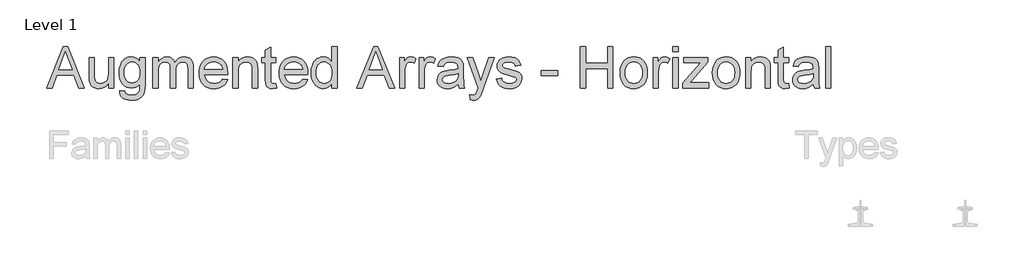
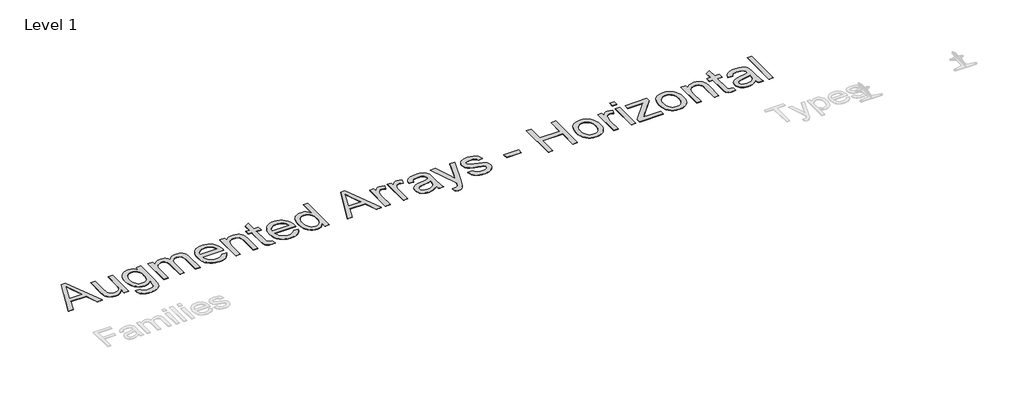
# One storey, part 5 of 9: 1 proxy.
"""IFC4 building model written with IfcOpenShell, lengths in millimetres."""

from ifc_helpers import new_model, si_unit, origin, origin_with_axes, place, context, project, spatial, polyline, outline, extrude, element, save

model = new_model("IFC4")

# Units and contexts
model_context = context("Model", 3, world=origin())
ifc_project = project(units=[si_unit("LENGTHUNIT", "METRE", prefix="MILLI")], contexts=[model_context])

# Site, building, storey
site = spatial("IfcSite", under=ifc_project)
building = spatial("IfcBuilding", under=site)
storey = spatial("IfcBuildingStorey", under=building, Name="Level 1", Elevation=0.0)

# Proxy
placement = place(None, origin())
element("IfcBuildingElementProxy", 1, Name="600mm Arial", ObjectType="600mm Arial", at=placement, inside=storey, context=model_context, shape_type="SweptSolid", body=[
    extrude(outline(polyline([(-21103.7520682, 5351.3054836), (-20867.9347605, 5942.0747143), (-20805.0501451, 5942.0747143), (-20569.2328374, 5351.3054836), (-20647.2616836, 5351.3054836), (-20714.9059143, 5535.9208682), (-20958.223222, 5535.9208682), (-21025.723222, 5351.3054836), (-21103.7520682, 5351.3054836)]), holes=[polyline([(-20931.1078374, 5609.767022), (-20741.8770682, 5609.767022), (-20795.098222, 5755.0074066), (-20836.4924528, 5868.2285605), (-20873.271299, 5767.6997143), (-20931.1078374, 5609.767022)])]), origin_with_axes(), (0.0, 0.0, 1.0), 5.0),
    extrude(outline(polyline([(-20222.646299, 5351.3054836), (-20222.646299, 5425.8727913), (-20249.365049, 5389.2111326), (-20280.4828374, 5363.0242336), (-20315.9996643, 5347.3120941), (-20355.9155297, 5342.0747143), (-20391.8830778, 5345.752599), (-20425.3626451, 5356.7862528), (-20453.4515874, 5373.3727913), (-20473.2472605, 5393.7093297), (-20486.5705778, 5418.408849), (-20495.2424528, 5448.0843297), (-20499.5693759, 5516.7381759), (-20499.5693759, 5785.1516374), (-20425.723222, 5785.1516374), (-20425.723222, 5551.4977913), (-20424.6054336, 5504.767022), (-20421.2520682, 5476.2093297), (-20410.488847, 5451.095147), (-20392.0453374, 5432.002599), (-20367.1475009, 5419.9413009), (-20337.021299, 5415.9208682), (-20305.1643278, 5420.0314451), (-20275.3626451, 5432.3631759), (-20250.7893278, 5451.7802432), (-20234.6174528, 5477.1468297), (-20225.6390874, 5511.8884163), (-20222.646299, 5559.4304836), (-20222.646299, 5785.1516374), (-20148.8001451, 5785.1516374), (-20148.8001451, 5351.3054836), (-20222.646299, 5351.3054836)])), origin_with_axes(), (0.0, 0.0, 1.0), 5.0),
    extrude(outline(polyline([(-20065.723222, 5314.3824066), (-19991.8770682, 5305.1516374), (-19983.7280297, 5282.0747143), (-19967.9347605, 5266.2093297), (-19936.8890874, 5253.877599), (-19896.2520682, 5249.767022), (-19852.910722, 5254.4184643), (-19835.4047124, 5260.2327672), (-19820.6751451, 5268.3727913), (-19798.3193759, 5290.7285605), (-19784.6174528, 5320.5843297), (-19780.615049, 5352.3511566), (-19779.5693759, 5406.690099), (-19804.1426932, 5382.4593297), (-19831.5645682, 5365.1516374), (-19861.8350009, 5354.767022), (-19894.9539913, 5351.3054836), (-19935.4422725, 5355.3349307), (-19971.0898086, 5367.423272), (-20001.8965994, 5387.5705076), (-20027.8626451, 5415.7766374), (-20048.4651091, 5449.6167816), (-20063.1811547, 5486.6660605), (-20072.0107821, 5526.924474), (-20074.9539913, 5570.392022), (-20069.6715393, 5630.0134163), (-20053.8241836, 5684.8391374), (-20042.0783903, 5709.5611927), (-20027.9708182, 5731.299474), (-20011.5014672, 5750.0539812), (-19992.6703374, 5765.8247143), (-19971.7794119, 5778.3187047), (-19949.130674, 5787.2429836), (-19924.7241235, 5792.5975509), (-19898.5597605, 5794.3824066), (-19864.0255057, 5790.3439451), (-19832.6823567, 5778.2285605), (-19804.5303134, 5758.0362528), (-19779.5693759, 5729.767022), (-19779.5693759, 5785.1516374), (-19705.723222, 5785.1516374), (-19705.723222, 5410.5843297), (-19710.771299, 5324.0999547), (-19717.0813951, 5291.931986), (-19725.9155297, 5267.1468297), (-19737.4855417, 5247.1573466), (-19752.0032701, 5229.376397), (-19769.4687148, 5213.8039812), (-19789.8818759, 5200.440099), (-19813.0354216, 5189.7129355), (-19838.7220201, 5182.0506759), (-19866.9416716, 5177.4533201), (-19897.6943759, 5175.9208682), (-19933.8737629, 5178.0798225), (-19966.4023086, 5184.5566855), (-19995.2800129, 5195.3514571), (-20020.5068759, 5210.4641374), (-20040.8839792, 5229.9127552), (-20055.2124047, 5253.7153393), (-20063.4921523, 5281.8718898), (-20065.723222, 5314.3824066)]), holes=[polyline([(-20001.1078374, 5575.440099), (-19999.138186, 5538.9271783), (-19993.2292317, 5507.705724), (-19983.3809744, 5481.775736), (-19969.5934143, 5461.1372143), (-19952.8310946, 5445.3935244), (-19934.0585586, 5434.1480316), (-19913.2758062, 5427.400736), (-19890.4828374, 5425.1516374), (-19867.9152292, 5427.3872143), (-19847.2316355, 5434.0939451), (-19828.4320562, 5445.2718297), (-19811.5164913, 5460.9208682), (-19797.5396283, 5481.3565653), (-19787.5561547, 5506.8944259), (-19781.5660706, 5537.5344499), (-19779.5693759, 5573.2766374), (-19781.6246643, 5607.5269379), (-19787.7905297, 5637.2970701), (-19798.066972, 5662.5870341), (-19812.4539913, 5683.3968297), (-19829.7346403, 5699.6453273), (-19848.691972, 5711.251397), (-19869.3259865, 5718.2150389), (-19891.6366836, 5720.5362528), (-19913.5732821, 5718.2510966), (-19933.8061547, 5711.3956278), (-19952.3353014, 5699.9698466), (-19969.160722, 5683.9737528), (-19983.137585, 5663.4794619), (-19993.1210586, 5638.5590893), (-19999.1111427, 5609.212635), (-20001.1078374, 5575.440099)])]), origin_with_axes(), (0.0, 0.0, 1.0), 5.0),
    extrude(outline(polyline([(-19594.9539913, 5351.3054836), (-19594.9539913, 5785.1516374), (-19521.1078374, 5785.1516374), (-19521.1078374, 5713.7574066), (-19498.896299, 5746.5518778), (-19470.3386067, 5772.2429836), (-19436.4083182, 5788.8475509), (-19398.0789913, 5794.3824066), (-19357.0092797, 5788.7393778), (-19339.5303134, 5781.6855917), (-19324.0886067, 5771.8102913), (-19299.4972605, 5744.7129355), (-19283.4155297, 5708.565099), (-19256.4984624, 5746.1101711), (-19225.7953374, 5772.9280797), (-19191.3061547, 5789.0188249), (-19153.0309143, 5794.3824066), (-19123.4681139, 5792.1513369), (-19097.520097, 5785.4581278), (-19075.1868639, 5774.3027792), (-19056.4684143, 5758.6852913), (-19041.6712389, 5738.4253754), (-19031.1018278, 5713.3427432), (-19024.7601812, 5683.4373946), (-19022.646299, 5648.7093297), (-19022.646299, 5351.3054836), (-19096.4924528, 5351.3054836), (-19096.4924528, 5616.9785605), (-19098.2051932, 5653.8114932), (-19103.3434143, 5678.6372143), (-19112.9708182, 5695.6384163), (-19128.1511067, 5708.9977913), (-19147.676347, 5717.6516374), (-19170.3386067, 5720.5362528), (-19191.2655898, 5718.6882961), (-19210.3446163, 5713.1444259), (-19227.575686, 5703.9046422), (-19242.958799, 5690.9689451), (-19255.6105417, 5673.9587288), (-19264.6475009, 5652.4953874), (-19270.0696764, 5626.5789211), (-19271.8770682, 5596.2093297), (-19271.8770682, 5351.3054836), (-19345.723222, 5351.3054836), (-19345.723222, 5625.1997143), (-19349.9960586, 5666.954522), (-19362.8145682, 5696.7381759), (-19372.7259264, 5707.1498345), (-19385.3686547, 5714.5867336), (-19400.7427533, 5719.048873), (-19418.848222, 5720.5362528), (-19447.2977413, 5716.5699066), (-19473.5116836, 5704.6708682), (-19495.146299, 5685.127599), (-19509.8578374, 5658.2285605), (-19518.2953374, 5620.908849), (-19521.1078374, 5570.1035605), (-19521.1078374, 5351.3054836), (-19594.9539913, 5351.3054836)])), origin_with_axes(), (0.0, 0.0, 1.0), 5.0),
    extrude(outline(polyline([(-18608.1270682, 5480.5362528), (-18535.723222, 5471.3054836), (-18546.8244841, 5442.3060845), (-18561.8109624, 5416.7501951), (-18580.6826571, 5394.6378153), (-18603.4395682, 5375.9689451), (-18629.8473206, 5361.1402191), (-18659.6715393, 5350.548272), (-18692.9122244, 5344.1931038), (-18729.5693759, 5342.0747143), (-18775.3896884, 5345.7300629), (-18816.2160105, 5356.6961086), (-18852.0483422, 5374.9728514), (-18882.8866836, 5400.5602913), (-18907.6853615, 5432.7462889), (-18925.3987028, 5470.8187047), (-18936.0267076, 5514.7775389), (-18939.5693759, 5564.6227913), (-18935.9906499, 5616.158248), (-18925.254472, 5661.5819259), (-18907.3608422, 5700.8938249), (-18882.3097605, 5734.0939451), (-18851.552549, 5760.470147), (-18816.5405297, 5779.3102913), (-18777.2737028, 5790.6143778), (-18733.7520682, 5794.3824066), (-18691.6321764, 5790.6233922), (-18653.5417317, 5779.346349), (-18619.4807341, 5760.5512768), (-18589.4491836, 5734.2381759), (-18564.93446, 5701.1101711), (-18547.4239432, 5661.8703874), (-18536.9176331, 5616.5188249), (-18533.4155297, 5565.0554836), (-18533.848222, 5545.1516374), (-18865.723222, 5545.1516374), (-18861.4458783, 5515.6834884), (-18852.9407701, 5489.8751951), (-18840.2078975, 5467.7267576), (-18823.2472605, 5449.2381759), (-18802.9963591, 5434.6618538), (-18780.3926932, 5424.2501951), (-18755.4362629, 5418.0031999), (-18728.1270682, 5415.9208682), (-18688.8241836, 5419.7790413), (-18655.723222, 5431.3535605), (-18628.8241836, 5451.3655797), (-18608.1270682, 5480.5362528)]), holes=[polyline([(-18865.723222, 5618.9977913), (-18607.2616836, 5618.9977913), (-18617.2496643, 5658.0122143), (-18625.8404095, 5673.3547624), (-18636.8289913, 5685.9208682), (-18656.9672124, 5701.065099), (-18679.8818759, 5711.8824066), (-18705.5729817, 5718.3727913), (-18734.0405297, 5720.5362528), (-18760.0065754, 5718.8099908), (-18783.818174, 5713.6312047), (-18805.4753254, 5704.9998946), (-18824.9780297, 5692.9160605), (-18841.3437148, 5677.9385966), (-18853.5898086, 5660.626397), (-18861.716311, 5640.9794619), (-18865.723222, 5618.9977913)])]), origin_with_axes(), (0.0, 0.0, 1.0), 5.0),
    extrude(outline(polyline([(-18459.5693759, 5351.3054836), (-18459.5693759, 5785.1516374), (-18385.723222, 5785.1516374), (-18385.723222, 5724.5747143), (-18360.068174, 5755.1155797), (-18329.2568759, 5776.9304836), (-18293.2893278, 5790.0194259), (-18252.1655297, 5794.3824066), (-18215.7652893, 5790.8667816), (-18182.4299528, 5780.3199066), (-18154.629472, 5764.0578874), (-18134.833799, 5743.3968297), (-18121.4023086, 5718.3908201), (-18112.6943759, 5689.0939451), (-18108.8001451, 5617.6997143), (-18108.8001451, 5351.3054836), (-18182.646299, 5351.3054836), (-18182.646299, 5607.7477913), (-18184.7737028, 5645.9328874), (-18191.1559143, 5673.0843297), (-18202.9287509, 5692.5374547), (-18221.2280297, 5707.627599), (-18244.6835586, 5717.3090893), (-18271.9251451, 5720.5362528), (-18294.3485225, 5718.7243538), (-18315.176347, 5713.2886566), (-18334.4086187, 5704.2291615), (-18352.0453374, 5691.5458682), (-18366.7794119, 5673.7964691), (-18377.3037509, 5649.5386566), (-18383.6183542, 5618.7724307), (-18385.723222, 5581.4977913), (-18385.723222, 5351.3054836), (-18459.5693759, 5351.3054836)])), origin_with_axes(), (0.0, 0.0, 1.0), 5.0),
    extrude(outline(polyline([(-17850.3386067, 5412.892022), (-17841.1078374, 5349.142022), (-17896.348222, 5342.0747143), (-17931.7929336, 5345.1396182), (-17958.223222, 5354.3343297), (-17976.9011067, 5368.5050028), (-17989.0886067, 5386.4977913), (-17995.7953374, 5417.3992336), (-17998.0309143, 5470.2958682), (-17998.0309143, 5711.3054836), (-18053.4155297, 5711.3054836), (-18053.4155297, 5785.1516374), (-17998.0309143, 5785.1516374), (-17998.0309143, 5890.5843297), (-17924.1847605, 5933.9977913), (-17924.1847605, 5785.1516374), (-17850.3386067, 5785.1516374), (-17850.3386067, 5711.3054836), (-17924.1847605, 5711.3054836), (-17924.1847605, 5472.4593297), (-17920.2905297, 5434.3824066), (-17907.6703374, 5420.8968297), (-17897.0152893, 5417.1648586), (-17882.5020682, 5415.9208682), (-17850.3386067, 5412.892022)])), origin_with_axes(), (0.0, 0.0, 1.0), 5.0),
    extrude(outline(polyline([(-17472.7424528, 5480.5362528), (-17400.3386067, 5471.3054836), (-17411.4398687, 5442.3060845), (-17426.426347, 5416.7501951), (-17445.2980417, 5394.6378153), (-17468.0549528, 5375.9689451), (-17494.4627052, 5361.1402191), (-17524.286924, 5350.548272), (-17557.5276091, 5344.1931038), (-17594.1847605, 5342.0747143), (-17640.005073, 5345.7300629), (-17680.8313951, 5356.6961086), (-17716.6637268, 5374.9728514), (-17747.5020682, 5400.5602913), (-17772.3007461, 5432.7462889), (-17790.0140874, 5470.8187047), (-17800.6420922, 5514.7775389), (-17804.1847605, 5564.6227913), (-17800.6060345, 5616.158248), (-17789.8698567, 5661.5819259), (-17771.9762268, 5700.8938249), (-17746.9251451, 5734.0939451), (-17716.1679336, 5760.470147), (-17681.1559143, 5779.3102913), (-17641.8890874, 5790.6143778), (-17598.3674528, 5794.3824066), (-17556.247561, 5790.6233922), (-17518.1571163, 5779.346349), (-17484.0961187, 5760.5512768), (-17454.0645682, 5734.2381759), (-17429.5498446, 5701.1101711), (-17412.0393278, 5661.8703874), (-17401.5330177, 5616.5188249), (-17398.0309143, 5565.0554836), (-17398.4636067, 5545.1516374), (-17730.3386067, 5545.1516374), (-17726.0612629, 5515.6834884), (-17717.5561547, 5489.8751951), (-17704.8232821, 5467.7267576), (-17687.8626451, 5449.2381759), (-17667.6117437, 5434.6618538), (-17645.0080778, 5424.2501951), (-17620.0516475, 5418.0031999), (-17592.7424528, 5415.9208682), (-17553.4395682, 5419.7790413), (-17520.3386067, 5431.3535605), (-17493.4395682, 5451.3655797), (-17472.7424528, 5480.5362528)]), holes=[polyline([(-17730.3386067, 5618.9977913), (-17471.8770682, 5618.9977913), (-17481.865049, 5658.0122143), (-17490.4557942, 5673.3547624), (-17501.4443759, 5685.9208682), (-17521.582597, 5701.065099), (-17544.4972605, 5711.8824066), (-17570.1883663, 5718.3727913), (-17598.6559143, 5720.5362528), (-17624.62196, 5718.8099908), (-17648.4335586, 5713.6312047), (-17670.09071, 5704.9998946), (-17689.5934143, 5692.9160605), (-17705.9590994, 5677.9385966), (-17718.2051932, 5660.626397), (-17726.3316956, 5640.9794619), (-17730.3386067, 5618.9977913)])]), origin_with_axes(), (0.0, 0.0, 1.0), 5.0),
    extrude(outline(polyline([(-17056.4924528, 5351.3054836), (-17056.4924528, 5420.9689451), (-17078.5868038, 5386.4527191), (-17105.3506259, 5361.798272), (-17136.7839192, 5347.0056038), (-17172.8866836, 5342.0747143), (-17197.2616836, 5343.8595701), (-17220.6270682, 5349.2141374), (-17242.9828374, 5358.1384163), (-17264.3289913, 5370.6324066), (-17283.9984624, 5386.32201), (-17301.3241836, 5404.8331278), (-17316.3061547, 5426.16576), (-17328.9443759, 5450.3199066), (-17338.9774288, 5476.8358321), (-17346.1438951, 5505.2538009), (-17351.8770682, 5567.7958682), (-17346.5946163, 5629.5626951), (-17330.7472605, 5685.3439451), (-17318.8662509, 5710.1967095), (-17304.3530297, 5731.9665413), (-17287.207597, 5750.6534403), (-17267.4299528, 5766.2574066), (-17245.7187148, 5778.5620941), (-17222.7725009, 5787.3511566), (-17198.591311, 5792.6245941), (-17173.1751451, 5794.3824066), (-17137.0453374, 5789.3523586), (-17105.098222, 5774.2622143), (-17078.0188951, 5751.1312047), (-17056.4924528, 5721.9785605), (-17056.4924528, 5942.0747143), (-16982.646299, 5942.0747143), (-16982.646299, 5351.3054836), (-17056.4924528, 5351.3054836)]), holes=[polyline([(-17278.0309143, 5568.0843297), (-17275.9485826, 5532.2745341), (-17269.7015874, 5501.2874547), (-17259.2899288, 5475.1230917), (-17244.7136067, 5453.7814451), (-17227.3067557, 5437.2174427), (-17208.4035105, 5425.3860124), (-17188.0038711, 5418.2871542), (-17166.1078374, 5415.9208682), (-17144.1081379, 5418.1789812), (-17123.8301932, 5424.9533201), (-17105.2740033, 5436.243885), (-17088.4395682, 5452.0506759), (-17074.4627052, 5472.4998946), (-17064.4792317, 5497.7177432), (-17058.4891475, 5527.7042216), (-17056.4924528, 5562.4593297), (-17058.5252052, 5600.5632961), (-17064.6234624, 5633.2405797), (-17074.7872244, 5660.4911807), (-17089.0164913, 5682.315099), (-17106.2205177, 5699.0368538), (-17125.3085586, 5710.9809643), (-17146.2806139, 5718.1474307), (-17169.1366836, 5720.5362528), (-17191.4654095, 5718.2420821), (-17211.865049, 5711.3595701), (-17230.3356018, 5699.8887167), (-17246.8770682, 5683.829522), (-17260.5068759, 5662.8304235), (-17270.2424528, 5636.5398586), (-17276.083799, 5604.9578273), (-17278.0309143, 5568.0843297)])]), origin_with_axes(), (0.0, 0.0, 1.0), 5.0),
    extrude(outline(polyline([(-16700.6751451, 5351.3054836), (-16464.8578374, 5942.0747143), (-16401.973222, 5942.0747143), (-16166.1559143, 5351.3054836), (-16244.1847605, 5351.3054836), (-16311.8289913, 5535.9208682), (-16555.146299, 5535.9208682), (-16622.646299, 5351.3054836), (-16700.6751451, 5351.3054836)]), holes=[polyline([(-16528.0309143, 5609.767022), (-16338.8001451, 5609.767022), (-16392.021299, 5755.0074066), (-16433.4155297, 5868.2285605), (-16470.1943759, 5767.6997143), (-16528.0309143, 5609.767022)])]), origin_with_axes(), (0.0, 0.0, 1.0), 5.0),
    extrude(outline(polyline([(-16096.4924528, 5351.3054836), (-16096.4924528, 5785.1516374), (-16031.8770682, 5785.1516374), (-16031.8770682, 5720.9689451), (-16008.0068759, 5758.1804836), (-15986.0116836, 5780.1035605), (-15963.9443759, 5790.8126951), (-15939.8578374, 5794.3824066), (-15903.0789913, 5788.6852913), (-15865.723222, 5771.5939451), (-15890.3866836, 5705.392022), (-15916.348222, 5716.7501951), (-15942.3097605, 5720.5362528), (-15964.3590393, 5716.8944259), (-15984.0645682, 5705.9689451), (-15999.9840393, 5688.5891374), (-16010.6751451, 5665.5843297), (-16019.6535105, 5624.3343297), (-16022.646299, 5579.3343297), (-16022.646299, 5351.3054836), (-16096.4924528, 5351.3054836)])), origin_with_axes(), (0.0, 0.0, 1.0), 5.0),
    extrude(outline(polyline([(-15819.5693759, 5351.3054836), (-15819.5693759, 5785.1516374), (-15754.9539913, 5785.1516374), (-15754.9539913, 5720.9689451), (-15731.083799, 5758.1804836), (-15709.0886067, 5780.1035605), (-15687.021299, 5790.8126951), (-15662.9347605, 5794.3824066), (-15626.1559143, 5788.6852913), (-15588.8001451, 5771.5939451), (-15613.4636067, 5705.392022), (-15639.4251451, 5716.7501951), (-15665.3866836, 5720.5362528), (-15687.4359624, 5716.8944259), (-15707.1414913, 5705.9689451), (-15723.0609624, 5688.5891374), (-15733.7520682, 5665.5843297), (-15742.7304336, 5624.3343297), (-15745.723222, 5579.3343297), (-15745.723222, 5351.3054836), (-15819.5693759, 5351.3054836)])), origin_with_axes(), (0.0, 0.0, 1.0), 5.0),
    extrude(outline(polyline([(-15265.723222, 5406.690099), (-15301.005674, 5376.4376951), (-15337.333799, 5356.642022), (-15375.536924, 5345.7165413), (-15416.4443759, 5342.0747143), (-15449.3244841, 5344.2652191), (-15478.1571163, 5350.8367336), (-15502.9422725, 5361.7892576), (-15523.6799528, 5377.1227913), (-15540.0546523, 5395.8637768), (-15551.7508663, 5417.0386566), (-15558.7685946, 5440.6474307), (-15561.1078374, 5466.690099), (-15557.5741836, 5497.3030797), (-15546.973222, 5525.1035605), (-15530.6210586, 5548.9016374), (-15509.833799, 5567.5074066), (-15485.4047124, 5581.5699066), (-15458.1270682, 5591.7381759), (-15394.2328374, 5602.8439451), (-15318.7280297, 5614.5266374), (-15266.1559143, 5628.2285605), (-15265.723222, 5644.6708682), (-15270.8073567, 5677.627599), (-15277.1625249, 5689.8331278), (-15286.0597605, 5699.190099), (-15301.4383663, 5708.5290413), (-15320.1703374, 5715.1997143), (-15367.6943759, 5720.5362528), (-15411.6847605, 5716.9845701), (-15442.4059143, 5706.329522), (-15463.3554336, 5686.6239932), (-15478.0309143, 5655.9208682), (-15551.8770682, 5665.1516374), (-15539.0585586, 5705.5362528), (-15519.9299528, 5737.267022), (-15492.7063951, 5761.533849), (-15455.6030297, 5779.5266374), (-15410.224424, 5790.6684643), (-15358.1751451, 5794.3824066), (-15308.2532701, 5791.1011566), (-15268.6799528, 5781.2574066), (-15238.8422124, 5766.455724), (-15218.1270682, 5748.3006759), (-15204.3890874, 5725.8547624), (-15195.4828374, 5698.1804836), (-15191.8770682, 5633.565099), (-15191.8770682, 5541.690099), (-15188.1270682, 5413.3968297), (-15182.5741836, 5381.6840893), (-15173.4155297, 5351.3054836), (-15247.2616836, 5351.3054836), (-15259.0886067, 5376.9785605), (-15265.723222, 5406.690099)]), holes=[polyline([(-15265.723222, 5554.3824066), (-15315.3386067, 5542.0867336), (-15384.8578374, 5531.7381759), (-15448.3914913, 5519.767022), (-15464.9239432, 5511.5819259), (-15477.1655297, 5500.2958682), (-15484.7376451, 5486.7742336), (-15487.2616836, 5471.8824066), (-15481.7628855, 5449.923272), (-15465.2664913, 5431.9304836), (-15438.1330778, 5419.923272), (-15400.723222, 5415.9208682), (-15361.0597605, 5420.3379355), (-15326.0116836, 5433.5891374), (-15297.598222, 5453.1143778), (-15277.8386067, 5476.3535605), (-15269.0765874, 5500.2958682), (-15266.1559143, 5533.4689451), (-15265.723222, 5554.3824066)])]), origin_with_axes(), (0.0, 0.0, 1.0), 5.0),
    extrude(outline(polyline([(-15090.3386067, 5185.1516374), (-15099.5693759, 5256.2574066), (-15062.0693759, 5249.767022), (-15042.3458182, 5251.8042816), (-15027.021299, 5257.9160605), (-15015.0862028, 5267.6696663), (-15005.5309143, 5280.6324066), (-14985.3386067, 5335.0074066), (-14979.5693759, 5352.892022), (-15136.4924528, 5785.1516374), (-15058.6078374, 5785.1516374), (-14975.3866836, 5544.2862528), (-14946.396299, 5447.940099), (-14917.4059143, 5533.0362528), (-14831.8770682, 5785.1516374), (-14754.5693759, 5785.1516374), (-14905.5789913, 5340.9208682), (-14944.8097605, 5244.5747143), (-14964.8938951, 5213.8175028), (-14987.646299, 5192.5074066), (-15014.0765874, 5180.0675028), (-15045.1943759, 5175.9208682), (-15066.5765874, 5178.2285605), (-15090.3386067, 5185.1516374)])), origin_with_axes(), (0.0, 0.0, 1.0), 5.0),
    extrude(outline(polyline([(-14721.1078374, 5480.5362528), (-14647.2616836, 5489.767022), (-14642.7995442, 5472.9280797), (-14635.615049, 5458.1804836), (-14625.708198, 5445.5242336), (-14613.0789913, 5434.9593297), (-14597.6913711, 5426.6300028), (-14579.5092797, 5420.6804836), (-14534.7616836, 5415.9208682), (-14490.5549528, 5420.283849), (-14473.3734624, 5425.7375749), (-14459.473222, 5433.3727913), (-14441.083799, 5452.3391374), (-14434.9539913, 5474.3343297), (-14436.4954576, 5484.3042816), (-14441.1198567, 5493.1564451), (-14459.6174528, 5507.5074066), (-14487.2737028, 5516.8824066), (-14535.6270682, 5528.565099), (-14603.0188951, 5548.0542816), (-14646.8289913, 5564.6949066), (-14674.9720201, 5582.8499547), (-14695.3626451, 5606.8824066), (-14707.7484624, 5635.2598105), (-14711.8770682, 5666.4497143), (-14708.5597605, 5695.0614932), (-14698.6078374, 5721.4737528), (-14682.9227413, 5744.6408201), (-14662.4059143, 5763.517022), (-14642.0152893, 5775.3980316), (-14615.458799, 5785.3679836), (-14584.755674, 5792.1288009), (-14551.9251451, 5794.3824066), (-14503.8602413, 5790.7586086), (-14462.0693759, 5779.8872143), (-14428.4636067, 5762.8319259), (-14404.9539913, 5740.6564451), (-14389.3770682, 5711.720147), (-14379.5693759, 5674.3824066), (-14453.4155297, 5665.1516374), (-14462.7364432, 5688.3908201), (-14481.1799528, 5705.8968297), (-14508.926347, 5716.876397), (-14546.1559143, 5720.5362528), (-14588.5597605, 5717.0386566), (-14616.8289913, 5706.5458682), (-14632.7304336, 5691.4016374), (-14638.0309143, 5673.9497143), (-14635.8313951, 5662.5915413), (-14629.2328374, 5652.4593297), (-14617.9467797, 5643.408849), (-14601.6847605, 5636.1612528), (-14538.0789913, 5620.440099), (-14429.6895682, 5585.6804836), (-14401.0597605, 5569.0578874), (-14379.3530297, 5546.3054836), (-14365.6691355, 5517.3511566), (-14361.1078374, 5482.1227913), (-14366.4624047, 5445.704522), (-14382.5261067, 5411.4497143), (-14408.6859624, 5382.0446663), (-14444.3289913, 5360.1756759), (-14487.3818759, 5346.5999547), (-14535.771299, 5342.0747143), (-14575.5158903, 5344.2562047), (-14610.2304336, 5350.8006759), (-14639.9149288, 5361.7081278), (-14664.5693759, 5376.9785605), (-14684.707597, 5396.5398586), (-14700.8434143, 5420.3199066), (-14712.9768278, 5448.3187047), (-14721.1078374, 5480.5362528)])), origin_with_axes(), (0.0, 0.0, 1.0), 5.0),
    extrude(outline(polyline([(-14084.1847605, 5526.690099), (-14084.1847605, 5600.5362528), (-13853.4155297, 5600.5362528), (-13853.4155297, 5526.690099), (-14084.1847605, 5526.690099)])), origin_with_axes(), (0.0, 0.0, 1.0), 5.0),
    extrude(outline(polyline([(-13530.3386067, 5351.3054836), (-13530.3386067, 5942.0747143), (-13456.4924528, 5942.0747143), (-13456.4924528, 5702.0747143), (-13142.646299, 5702.0747143), (-13142.646299, 5942.0747143), (-13068.8001451, 5942.0747143), (-13068.8001451, 5351.3054836), (-13142.646299, 5351.3054836), (-13142.646299, 5628.2285605), (-13456.4924528, 5628.2285605), (-13456.4924528, 5351.3054836), (-13530.3386067, 5351.3054836)])), origin_with_axes(), (0.0, 0.0, 1.0), 5.0),
    extrude(outline(polyline([(-12967.2616836, 5568.2285605), (-12963.2682942, 5624.4154595), (-12951.2881259, 5672.8319259), (-12931.3211788, 5713.4779595), (-12903.3674528, 5746.3535605), (-12875.224424, 5767.3661807), (-12844.160722, 5782.3751951), (-12810.176347, 5791.3806038), (-12773.271299, 5794.3824066), (-12732.5306139, 5790.7270581), (-12695.693174, 5779.7610124), (-12662.7589792, 5761.4842696), (-12633.7280297, 5735.8968297), (-12610.0336187, 5703.8640773), (-12593.1090393, 5666.251397), (-12582.9542917, 5623.0587889), (-12579.5693759, 5574.2862528), (-12581.0657701, 5534.7580076), (-12585.5549528, 5499.6828874), (-12593.036924, 5469.0608922), (-12603.5116836, 5442.892022), (-12616.8485225, 5420.2883562), (-12632.9167317, 5400.361974), (-12651.716311, 5383.1128754), (-12673.2472605, 5368.5410605), (-12696.6712389, 5356.9620341), (-12721.1499047, 5348.6913009), (-12746.6832581, 5343.728861), (-12773.271299, 5342.0747143), (-12814.606936, 5345.7165413), (-12851.786924, 5356.642022), (-12884.8112629, 5374.8511566), (-12913.6799528, 5400.3439451), (-12937.12196, 5432.6876951), (-12953.8662509, 5471.4497143), (-12963.9128254, 5516.6300028), (-12967.2616836, 5568.2285605)]), holes=[polyline([(-12893.4155297, 5568.3727913), (-12891.2791115, 5532.5539812), (-12884.8698567, 5501.5398586), (-12874.1877653, 5475.3304235), (-12859.2328374, 5453.9256759), (-12841.0417317, 5437.2985725), (-12820.6511067, 5425.4220701), (-12798.0609624, 5418.2961687), (-12773.271299, 5415.9208682), (-12748.6078374, 5418.3096903), (-12726.1078374, 5425.4761566), (-12705.771299, 5437.4202672), (-12687.598222, 5454.142022), (-12672.6432942, 5475.7586086), (-12661.9612028, 5502.3872143), (-12655.551948, 5534.0278393), (-12653.4155297, 5570.6804836), (-12655.5654696, 5605.3634764), (-12662.0152893, 5635.5663009), (-12672.7649889, 5661.2889571), (-12687.8145682, 5682.5314451), (-12706.0552533, 5699.1585485), (-12726.3782701, 5711.0350509), (-12748.7836187, 5718.1609523), (-12773.271299, 5720.5362528), (-12798.0609624, 5718.1699667), (-12820.6511067, 5711.0711086), (-12841.0417317, 5699.2396783), (-12859.2328374, 5682.6756759), (-12874.1877653, 5661.3340292), (-12884.8698567, 5635.1696663), (-12891.2791115, 5604.1825869), (-12893.4155297, 5568.3727913)])]), origin_with_axes(), (0.0, 0.0, 1.0), 5.0),
    extrude(outline(polyline([(-12496.4924528, 5351.3054836), (-12496.4924528, 5785.1516374), (-12431.8770682, 5785.1516374), (-12431.8770682, 5720.9689451), (-12408.0068759, 5758.1804836), (-12386.0116836, 5780.1035605), (-12363.9443759, 5790.8126951), (-12339.8578374, 5794.3824066), (-12303.0789913, 5788.6852913), (-12265.723222, 5771.5939451), (-12290.3866836, 5705.392022), (-12316.348222, 5716.7501951), (-12342.3097605, 5720.5362528), (-12364.3590393, 5716.8944259), (-12384.0645682, 5705.9689451), (-12399.9840393, 5688.5891374), (-12410.6751451, 5665.5843297), (-12419.6535105, 5624.3343297), (-12422.646299, 5579.3343297), (-12422.646299, 5351.3054836), (-12496.4924528, 5351.3054836)])), origin_with_axes(), (0.0, 0.0, 1.0), 5.0),
    extrude(outline(polyline([(-12219.5693759, 5351.3054836), (-12219.5693759, 5785.1516374), (-12145.723222, 5785.1516374), (-12145.723222, 5351.3054836), (-12219.5693759, 5351.3054836)])), origin_with_axes(), (0.0, 0.0, 1.0), 5.0),
    extrude(outline(polyline([(-12219.5693759, 5868.2285605), (-12219.5693759, 5942.0747143), (-12145.723222, 5942.0747143), (-12145.723222, 5868.2285605), (-12219.5693759, 5868.2285605)])), origin_with_axes(), (0.0, 0.0, 1.0), 5.0),
    extrude(outline(polyline([(-12081.1078374, 5351.3054836), (-12081.1078374, 5420.8247143), (-11826.2520682, 5711.3054836), (-11901.6847605, 5711.3054836), (-12062.646299, 5711.3054836), (-12062.646299, 5785.1516374), (-11721.1078374, 5785.1516374), (-11721.1078374, 5722.4112528), (-11947.1174528, 5464.6708682), (-11981.7328374, 5425.1516374), (-11896.348222, 5425.1516374), (-11711.8770682, 5425.1516374), (-11711.8770682, 5351.3054836), (-12081.1078374, 5351.3054836)])), origin_with_axes(), (0.0, 0.0, 1.0), 5.0),
    extrude(outline(polyline([(-11656.4924528, 5568.2285605), (-11652.4990634, 5624.4154595), (-11640.5188951, 5672.8319259), (-11620.551948, 5713.4779595), (-11592.598222, 5746.3535605), (-11564.4551932, 5767.3661807), (-11533.3914913, 5782.3751951), (-11499.4071163, 5791.3806038), (-11462.5020682, 5794.3824066), (-11421.7613831, 5790.7270581), (-11384.9239432, 5779.7610124), (-11351.9897485, 5761.4842696), (-11322.958799, 5735.8968297), (-11299.2643879, 5703.8640773), (-11282.3398086, 5666.251397), (-11272.185061, 5623.0587889), (-11268.8001451, 5574.2862528), (-11270.2965393, 5534.7580076), (-11274.785722, 5499.6828874), (-11282.2676932, 5469.0608922), (-11292.7424528, 5442.892022), (-11306.0792917, 5420.2883562), (-11322.1475009, 5400.361974), (-11340.9470802, 5383.1128754), (-11362.4780297, 5368.5410605), (-11385.9020081, 5356.9620341), (-11410.380674, 5348.6913009), (-11435.9140273, 5343.728861), (-11462.5020682, 5342.0747143), (-11503.8377052, 5345.7165413), (-11541.0176932, 5356.642022), (-11574.0420321, 5374.8511566), (-11602.910722, 5400.3439451), (-11626.3527292, 5432.6876951), (-11643.0970201, 5471.4497143), (-11653.1435946, 5516.6300028), (-11656.4924528, 5568.2285605)]), holes=[polyline([(-11582.646299, 5568.3727913), (-11580.5098807, 5532.5539812), (-11574.1006259, 5501.5398586), (-11563.4185345, 5475.3304235), (-11548.4636067, 5453.9256759), (-11530.2725009, 5437.2985725), (-11509.8818759, 5425.4220701), (-11487.2917317, 5418.2961687), (-11462.5020682, 5415.9208682), (-11437.8386067, 5418.3096903), (-11415.3386067, 5425.4761566), (-11395.0020682, 5437.4202672), (-11376.8289913, 5454.142022), (-11361.8740634, 5475.7586086), (-11351.191972, 5502.3872143), (-11344.7827172, 5534.0278393), (-11342.646299, 5570.6804836), (-11344.7962389, 5605.3634764), (-11351.2460586, 5635.5663009), (-11361.9957581, 5661.2889571), (-11377.0453374, 5682.5314451), (-11395.2860225, 5699.1585485), (-11415.6090393, 5711.0350509), (-11438.0143879, 5718.1609523), (-11462.5020682, 5720.5362528), (-11487.2917317, 5718.1699667), (-11509.8818759, 5711.0711086), (-11530.2725009, 5699.2396783), (-11548.4636067, 5682.6756759), (-11563.4185345, 5661.3340292), (-11574.1006259, 5635.1696663), (-11580.5098807, 5604.1825869), (-11582.646299, 5568.3727913)])]), origin_with_axes(), (0.0, 0.0, 1.0), 5.0),
    extrude(outline(polyline([(-11185.723222, 5351.3054836), (-11185.723222, 5785.1516374), (-11111.8770682, 5785.1516374), (-11111.8770682, 5724.5747143), (-11086.2220201, 5755.1155797), (-11055.410722, 5776.9304836), (-11019.443174, 5790.0194259), (-10978.3193759, 5794.3824066), (-10941.9191355, 5790.8667816), (-10908.583799, 5780.3199066), (-10880.7833182, 5764.0578874), (-10860.9876451, 5743.3968297), (-10847.5561547, 5718.3908201), (-10838.848222, 5689.0939451), (-10834.9539913, 5617.6997143), (-10834.9539913, 5351.3054836), (-10908.8001451, 5351.3054836), (-10908.8001451, 5607.7477913), (-10910.927549, 5645.9328874), (-10917.3097605, 5673.0843297), (-10929.082597, 5692.5374547), (-10947.3818759, 5707.627599), (-10970.8374047, 5717.3090893), (-10998.0789913, 5720.5362528), (-11020.5023687, 5718.7243538), (-11041.3301932, 5713.2886566), (-11060.5624648, 5704.2291615), (-11078.1991836, 5691.5458682), (-11092.9332581, 5673.7964691), (-11103.457597, 5649.5386566), (-11109.7722004, 5618.7724307), (-11111.8770682, 5581.4977913), (-11111.8770682, 5351.3054836), (-11185.723222, 5351.3054836)])), origin_with_axes(), (0.0, 0.0, 1.0), 5.0),
    extrude(outline(polyline([(-10576.4924528, 5412.892022), (-10567.2616836, 5349.142022), (-10622.5020682, 5342.0747143), (-10657.9467797, 5345.1396182), (-10684.3770682, 5354.3343297), (-10703.0549528, 5368.5050028), (-10715.2424528, 5386.4977913), (-10721.9491836, 5417.3992336), (-10724.1847605, 5470.2958682), (-10724.1847605, 5711.3054836), (-10779.5693759, 5711.3054836), (-10779.5693759, 5785.1516374), (-10724.1847605, 5785.1516374), (-10724.1847605, 5890.5843297), (-10650.3386067, 5933.9977913), (-10650.3386067, 5785.1516374), (-10576.4924528, 5785.1516374), (-10576.4924528, 5711.3054836), (-10650.3386067, 5711.3054836), (-10650.3386067, 5472.4593297), (-10646.4443759, 5434.3824066), (-10633.8241836, 5420.8968297), (-10623.1691355, 5417.1648586), (-10608.6559143, 5415.9208682), (-10576.4924528, 5412.892022)])), origin_with_axes(), (0.0, 0.0, 1.0), 5.0),
    extrude(outline(polyline([(-10225.723222, 5406.690099), (-10261.005674, 5376.4376951), (-10297.333799, 5356.642022), (-10335.536924, 5345.7165413), (-10376.4443759, 5342.0747143), (-10409.3244841, 5344.2652191), (-10438.1571163, 5350.8367336), (-10462.9422725, 5361.7892576), (-10483.6799528, 5377.1227913), (-10500.0546523, 5395.8637768), (-10511.7508663, 5417.0386566), (-10518.7685946, 5440.6474307), (-10521.1078374, 5466.690099), (-10517.5741836, 5497.3030797), (-10506.973222, 5525.1035605), (-10490.6210586, 5548.9016374), (-10469.833799, 5567.5074066), (-10445.4047124, 5581.5699066), (-10418.1270682, 5591.7381759), (-10354.2328374, 5602.8439451), (-10278.7280297, 5614.5266374), (-10226.1559143, 5628.2285605), (-10225.723222, 5644.6708682), (-10230.8073567, 5677.627599), (-10237.1625249, 5689.8331278), (-10246.0597605, 5699.190099), (-10261.4383663, 5708.5290413), (-10280.1703374, 5715.1997143), (-10327.6943759, 5720.5362528), (-10371.6847605, 5716.9845701), (-10402.4059143, 5706.329522), (-10423.3554336, 5686.6239932), (-10438.0309143, 5655.9208682), (-10511.8770682, 5665.1516374), (-10499.0585586, 5705.5362528), (-10479.9299528, 5737.267022), (-10452.7063951, 5761.533849), (-10415.6030297, 5779.5266374), (-10370.224424, 5790.6684643), (-10318.1751451, 5794.3824066), (-10268.2532701, 5791.1011566), (-10228.6799528, 5781.2574066), (-10198.8422124, 5766.455724), (-10178.1270682, 5748.3006759), (-10164.3890874, 5725.8547624), (-10155.4828374, 5698.1804836), (-10151.8770682, 5633.565099), (-10151.8770682, 5541.690099), (-10148.1270682, 5413.3968297), (-10142.5741836, 5381.6840893), (-10133.4155297, 5351.3054836), (-10207.2616836, 5351.3054836), (-10219.0886067, 5376.9785605), (-10225.723222, 5406.690099)]), holes=[polyline([(-10225.723222, 5554.3824066), (-10275.3386067, 5542.0867336), (-10344.8578374, 5531.7381759), (-10408.3914913, 5519.767022), (-10424.9239432, 5511.5819259), (-10437.1655297, 5500.2958682), (-10444.7376451, 5486.7742336), (-10447.2616836, 5471.8824066), (-10441.7628855, 5449.923272), (-10425.2664913, 5431.9304836), (-10398.1330778, 5419.923272), (-10360.723222, 5415.9208682), (-10321.0597605, 5420.3379355), (-10286.0116836, 5433.5891374), (-10257.598222, 5453.1143778), (-10237.8386067, 5476.3535605), (-10229.0765874, 5500.2958682), (-10226.1559143, 5533.4689451), (-10225.723222, 5554.3824066)])]), origin_with_axes(), (0.0, 0.0, 1.0), 5.0),
    extrude(outline(polyline([(-10050.3386067, 5351.3054836), (-10050.3386067, 5942.0747143), (-9976.4924528, 5942.0747143), (-9976.4924528, 5351.3054836), (-10050.3386067, 5351.3054836)])), origin_with_axes(), (0.0, 0.0, 1.0), 5.0),
])

save(model, "model.ifc")
